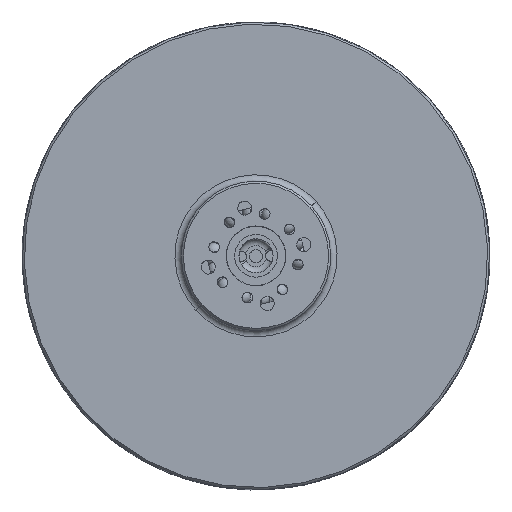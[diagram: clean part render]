
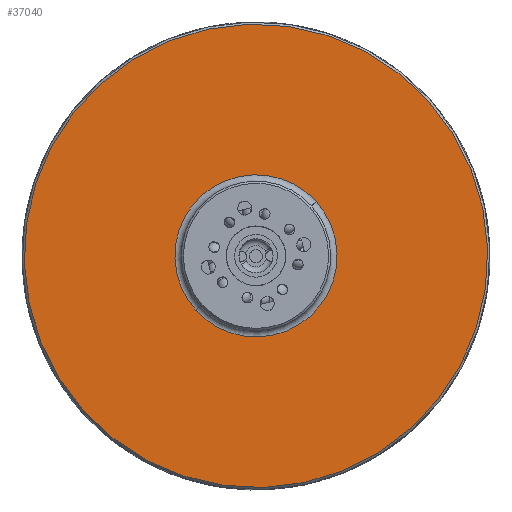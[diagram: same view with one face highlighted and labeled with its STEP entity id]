
A CAD part, top view. The second image highlights one B-rep face of the part: STEP entity #37040.
In plain terms, the highlighted planar face has unit normal (0, 0, 1).
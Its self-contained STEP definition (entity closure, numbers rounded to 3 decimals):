
#4613 = CARTESIAN_POINT ( 'NONE',  ( 12.436, 17.902, 142.85 ) ) ;
#6599 = ORIENTED_EDGE ( 'NONE', *, *, #40535, .T. ) ;
#6825 = EDGE_LOOP ( 'NONE', ( #13319, #6599 ) ) ;
#8181 = AXIS2_PLACEMENT_3D ( 'NONE', #104038, #10570, #44853 ) ;
#10570 = DIRECTION ( 'NONE',  ( 0., 0., 1. ) ) ;
#13319 = ORIENTED_EDGE ( 'NONE', *, *, #40070, .T. ) ;
#21607 = CARTESIAN_POINT ( 'NONE',  ( -68.401, -54.619, 142.85 ) ) ;
#22811 = VERTEX_POINT ( 'NONE', #37747 ) ;
#24124 = ORIENTED_EDGE ( 'NONE', *, *, #84486, .F. ) ;
#24642 = DIRECTION ( 'NONE',  ( 0., 0., 1. ) ) ;
#27841 = CIRCLE ( 'NONE', #91337, 19. ) ;
#28754 = CARTESIAN_POINT ( 'NONE',  ( -27.983, -18.359, 142.85 ) ) ;
#34189 = EDGE_LOOP ( 'NONE', ( #24124, #85182 ) ) ;
#37040 = ADVANCED_FACE ( 'NONE', ( #70235, #55283 ), #78504, .T. ) ;
#37145 = VERTEX_POINT ( 'NONE', #21607 ) ;
#37676 = DIRECTION ( 'NONE',  ( 1., 0., 0. ) ) ;
#37747 = CARTESIAN_POINT ( 'NONE',  ( -42.126, -31.046, 142.85 ) ) ;
#40070 = EDGE_CURVE ( 'NONE', #102468, #37145, #92983, .T. ) ;
#40535 = EDGE_CURVE ( 'NONE', #37145, #102468, #93064, .T. ) ;
#44853 = DIRECTION ( 'NONE',  ( 0.973, 0.229, 0. ) ) ;
#45360 = AXIS2_PLACEMENT_3D ( 'NONE', #28754, #106130, #46938 ) ;
#46633 = AXIS2_PLACEMENT_3D ( 'NONE', #104043, #69680, #37676 ) ;
#46938 = DIRECTION ( 'NONE',  ( 0.973, 0.229, 0. ) ) ;
#52872 = EDGE_CURVE ( 'NONE', #82245, #22811, #27841, .T. ) ;
#55283 = FACE_BOUND ( 'NONE', #34189, .T. ) ;
#59362 = CARTESIAN_POINT ( 'NONE',  ( -27.983, -18.359, 142.85 ) ) ;
#65070 = DIRECTION ( 'NONE',  ( 0., 0., 1. ) ) ;
#65633 = CARTESIAN_POINT ( 'NONE',  ( -27.983, -18.359, 142.85 ) ) ;
#69680 = DIRECTION ( 'NONE',  ( 0., 0., 1. ) ) ;
#70235 = FACE_OUTER_BOUND ( 'NONE', #6825, .T. ) ;
#71439 = CARTESIAN_POINT ( 'NONE',  ( -13.84, -5.671, 142.85 ) ) ;
#73371 = DIRECTION ( 'NONE',  ( 0.973, 0.229, 0. ) ) ;
#78504 = PLANE ( 'NONE',  #46633 ) ;
#82245 = VERTEX_POINT ( 'NONE', #71439 ) ;
#82918 = CIRCLE ( 'NONE', #104262, 19. ) ;
#84486 = EDGE_CURVE ( 'NONE', #22811, #82245, #82918, .T. ) ;
#85182 = ORIENTED_EDGE ( 'NONE', *, *, #52872, .F. ) ;
#91337 = AXIS2_PLACEMENT_3D ( 'NONE', #59362, #24642, #93165 ) ;
#92983 = CIRCLE ( 'NONE', #8181, 54.3 ) ;
#93064 = CIRCLE ( 'NONE', #45360, 54.3 ) ;
#93165 = DIRECTION ( 'NONE',  ( 0.973, 0.229, 0. ) ) ;
#102468 = VERTEX_POINT ( 'NONE', #4613 ) ;
#104038 = CARTESIAN_POINT ( 'NONE',  ( -27.983, -18.359, 142.85 ) ) ;
#104043 = CARTESIAN_POINT ( 'NONE',  ( -81.324, -30.917, 142.85 ) ) ;
#104262 = AXIS2_PLACEMENT_3D ( 'NONE', #65633, #65070, #73371 ) ;
#106130 = DIRECTION ( 'NONE',  ( 0., 0., 1. ) ) ;
